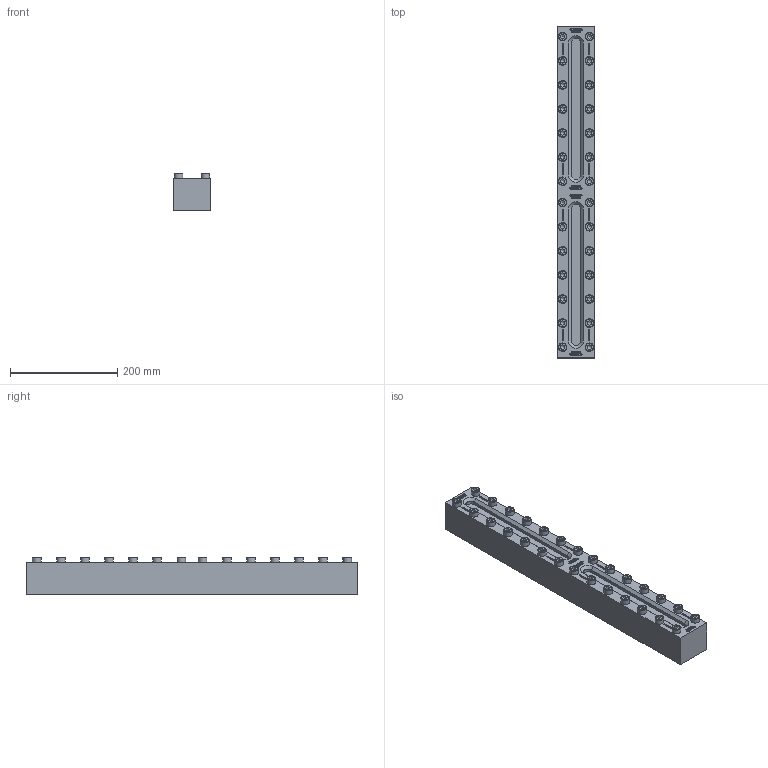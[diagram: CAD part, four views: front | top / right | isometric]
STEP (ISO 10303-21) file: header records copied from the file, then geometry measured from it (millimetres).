
FILE_DESCRIPTION(/* description */ (''),/* implementation_level */ '2;1');
FILE_NAME(/* name */ 'W:\Konstruktion_ACI\330\_Zeichnungen\STEP\ACI-330-620-40.stp',/* time_stamp */ '2022-03-01T17:22:07+01:00',/* author */ ('koslowksi'),/* organization */ (''),/* preprocessor_version */ 'ST-DEVELOPER v16.1',/* originating_system */ 'Autodesk Inventor 2016',/* authorisation */ '');
FILE_SCHEMA (('AUTOMOTIVE_DESIGN { 1 0 10303 214 3 1 1 }'));
Products named in the file (1): ACI-330-620-40.stp
Bounding box: 70 x 620 x 70.9 mm (x, y, z)
Volume: 2389145.1 mm3; surface area: 219630 mm2
Topology: 1 solids, 1 shells, 2506 faces, 6768 edges, 4500 vertices
Faces by surface type: plane 1806, bspline 604, cylinder 36, cone 32, torus 28
Full cylindrical faces by diameter (mm): 16 x28
Entity records: 82080 total; most frequent: CARTESIAN_POINT 21767, ORIENTED_EDGE 13256, DIRECTION 9162, EDGE_CURVE 6628, LINE 5148, VECTOR 5148, VERTEX_POINT 4444, EDGE_LOOP 2826
